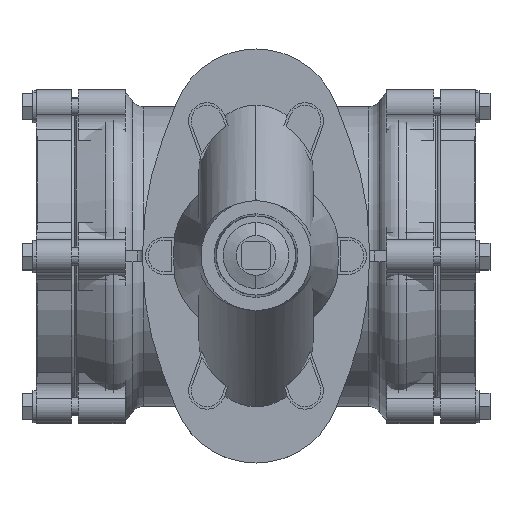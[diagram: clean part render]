
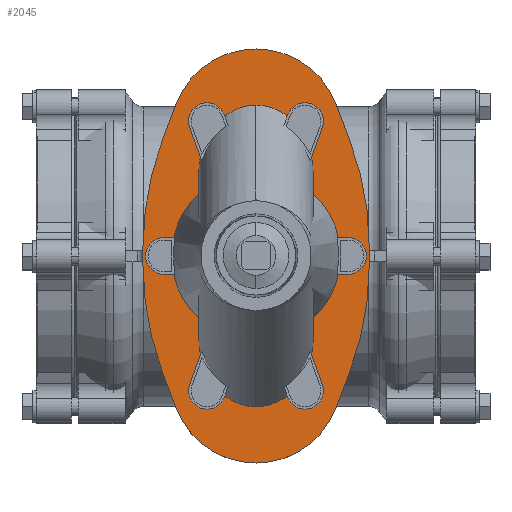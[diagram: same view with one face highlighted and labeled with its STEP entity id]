
A CAD part, top view. The second image highlights one B-rep face of the part: STEP entity #2045.
In plain terms, the highlighted planar face has unit normal (0, 0, 1).
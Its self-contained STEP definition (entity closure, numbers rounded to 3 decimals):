
#2045=ADVANCED_FACE('',(#4462),#4463,.T.);
#4462=FACE_OUTER_BOUND('',#8023,.T.);
#4463=PLANE('',#8024);
#8023=EDGE_LOOP('',(#11030,#11031,#11032,#11033,#11034,#11035,#11036,#11037,#11038,#11039,#11040,#11041,#11042,#11043));
#8024=AXIS2_PLACEMENT_3D('',#11044,#11045,#11046);
#11030=ORIENTED_EDGE('',*,*,#19022,.F.);
#11031=ORIENTED_EDGE('',*,*,#19023,.F.);
#11032=ORIENTED_EDGE('',*,*,#19024,.F.);
#11033=ORIENTED_EDGE('',*,*,#19025,.F.);
#11034=ORIENTED_EDGE('',*,*,#19026,.F.);
#11035=ORIENTED_EDGE('',*,*,#19027,.F.);
#11036=ORIENTED_EDGE('',*,*,#19028,.F.);
#11037=ORIENTED_EDGE('',*,*,#19029,.F.);
#11038=ORIENTED_EDGE('',*,*,#19030,.F.);
#11039=ORIENTED_EDGE('',*,*,#19031,.F.);
#11040=ORIENTED_EDGE('',*,*,#19032,.F.);
#11041=ORIENTED_EDGE('',*,*,#19033,.F.);
#11042=ORIENTED_EDGE('',*,*,#19034,.F.);
#11043=ORIENTED_EDGE('',*,*,#19035,.F.);
#11044=CARTESIAN_POINT('',(55.049,0.001,338.0));
#11045=DIRECTION('',(0.0,0.0,1.0));
#11046=DIRECTION('',(1.0,0.0,0.0));
#19022=EDGE_CURVE('',#22164,#22165,#22166,.T.);
#19023=EDGE_CURVE('',#22167,#22164,#22168,.T.);
#19024=EDGE_CURVE('',#22169,#22167,#22170,.T.);
#19025=EDGE_CURVE('',#22171,#22169,#22172,.T.);
#19026=EDGE_CURVE('',#22173,#22171,#22174,.T.);
#19027=EDGE_CURVE('',#22175,#22173,#22176,.T.);
#19028=EDGE_CURVE('',#22177,#22175,#22178,.T.);
#19029=EDGE_CURVE('',#22179,#22177,#22180,.T.);
#19030=EDGE_CURVE('',#22181,#22179,#22182,.T.);
#19031=EDGE_CURVE('',#22183,#22181,#22184,.T.);
#19032=EDGE_CURVE('',#22185,#22183,#22186,.T.);
#19033=EDGE_CURVE('',#22187,#22185,#22188,.T.);
#19034=EDGE_CURVE('',#22189,#22187,#22190,.T.);
#19035=EDGE_CURVE('',#22165,#22189,#22191,.T.);
#22164=VERTEX_POINT('',#26702);
#22165=VERTEX_POINT('',#26703);
#22166=LINE('',#26704,#26705);
#22167=VERTEX_POINT('',#26706);
#22168=CIRCLE('',#26707,77.985);
#22169=VERTEX_POINT('',#26708);
#22170=LINE('',#26709,#26710);
#22171=VERTEX_POINT('',#26711);
#22172=CIRCLE('',#26712,271.31);
#22173=VERTEX_POINT('',#26713);
#22174=CIRCLE('',#26714,271.31);
#22175=VERTEX_POINT('',#26715);
#22176=CIRCLE('',#26716,271.3);
#22177=VERTEX_POINT('',#26717);
#22178=CIRCLE('',#26718,271.3);
#22179=VERTEX_POINT('',#26719);
#22180=LINE('',#26720,#26721);
#22181=VERTEX_POINT('',#26722);
#22182=CIRCLE('',#26723,77.985);
#22183=VERTEX_POINT('',#26724);
#22184=LINE('',#26725,#26726);
#22185=VERTEX_POINT('',#26727);
#22186=CIRCLE('',#26728,283.766);
#22187=VERTEX_POINT('',#26729);
#22188=CIRCLE('',#26730,283.766);
#22189=VERTEX_POINT('',#26731);
#22190=CIRCLE('',#26732,283.766);
#22191=CIRCLE('',#26733,283.766);
#26702=CARTESIAN_POINT('',(-17.961,-137.997,338.0));
#26703=CARTESIAN_POINT('',(-29.718,-106.82,338.0));
#26704=CARTESIAN_POINT('',(-29.718,-106.82,338.0));
#26705=VECTOR('',#32515,1.0);
#26706=CARTESIAN_POINT('',(127.98,-137.977,338.0));
#26707=AXIS2_PLACEMENT_3D('',#32516,#32517,#32518);
#26708=CARTESIAN_POINT('',(139.718,-106.82,338.0));
#26709=CARTESIAN_POINT('',(127.98,-137.977,338.0));
#26710=VECTOR('',#32519,1.0);
#26711=CARTESIAN_POINT('',(158.036,-8.821,338.0));
#26712=AXIS2_PLACEMENT_3D('',#32520,#32521,#32522);
#26713=CARTESIAN_POINT('',(157.892,0.0,338.0));
#26714=AXIS2_PLACEMENT_3D('',#32523,#32524,#32525);
#26715=CARTESIAN_POINT('',(158.037,8.851,338.0));
#26716=AXIS2_PLACEMENT_3D('',#32526,#32527,#32528);
#26717=CARTESIAN_POINT('',(139.729,106.824,338.0));
#26718=AXIS2_PLACEMENT_3D('',#32529,#32530,#32531);
#26719=CARTESIAN_POINT('',(127.971,138.001,338.0));
#26720=CARTESIAN_POINT('',(139.729,106.824,338.0));
#26721=VECTOR('',#32532,1.0);
#26722=CARTESIAN_POINT('',(-17.961,137.997,338.0));
#26723=AXIS2_PLACEMENT_3D('',#32533,#32534,#32535);
#26724=CARTESIAN_POINT('',(-29.718,106.82,338.0));
#26725=CARTESIAN_POINT('',(-17.961,137.997,338.0));
#26726=VECTOR('',#32536,1.0);
#26727=CARTESIAN_POINT('',(-47.971,6.69,338.0));
#26728=AXIS2_PLACEMENT_3D('',#32537,#32538,#32539);
#26729=CARTESIAN_POINT('',(-47.892,0.,338.0));
#26730=AXIS2_PLACEMENT_3D('',#32540,#32541,#32542);
#26731=CARTESIAN_POINT('',(-47.971,-6.69,338.0));
#26732=AXIS2_PLACEMENT_3D('',#32543,#32544,#32545);
#26733=AXIS2_PLACEMENT_3D('',#32546,#32547,#32548);
#32515=DIRECTION('',(-0.353,0.936,0.0));
#32516=CARTESIAN_POINT('',(55.006,-110.473,338.0));
#32517=DIRECTION('',(0.0,0.0,-1.0));
#32518=DIRECTION('',(1.0,0.0,0.0));
#32519=DIRECTION('',(-0.353,-0.936,-0.0));
#32520=CARTESIAN_POINT('',(-113.275,-8.821,338.0));
#32521=DIRECTION('',(0.0,0.0,-1.0));
#32522=DIRECTION('',(1.0,0.0,0.0));
#32523=CARTESIAN_POINT('',(-113.275,-8.821,338.0));
#32524=DIRECTION('',(0.0,0.0,-1.0));
#32525=DIRECTION('',(1.0,0.0,0.0));
#32526=CARTESIAN_POINT('',(-113.264,8.851,338.0));
#32527=DIRECTION('',(0.0,0.0,-1.0));
#32528=DIRECTION('',(1.0,0.0,0.0));
#32529=CARTESIAN_POINT('',(-113.264,8.851,338.0));
#32530=DIRECTION('',(0.0,0.0,-1.0));
#32531=DIRECTION('',(1.0,0.0,0.0));
#32532=DIRECTION('',(0.353,-0.936,0.0));
#32533=CARTESIAN_POINT('',(55.006,110.473,338.0));
#32534=DIRECTION('',(0.0,0.0,-1.0));
#32535=DIRECTION('',(1.0,0.0,0.0));
#32536=DIRECTION('',(0.353,0.936,0.0));
#32537=CARTESIAN_POINT('',(235.795,6.69,338.0));
#32538=DIRECTION('',(0.0,0.0,-1.0));
#32539=DIRECTION('',(1.0,0.0,0.0));
#32540=CARTESIAN_POINT('',(235.795,6.69,338.0));
#32541=DIRECTION('',(0.0,0.0,-1.0));
#32542=DIRECTION('',(1.0,0.0,0.0));
#32543=CARTESIAN_POINT('',(235.795,-6.69,338.0));
#32544=DIRECTION('',(0.0,0.0,-1.0));
#32545=DIRECTION('',(1.0,0.0,0.0));
#32546=CARTESIAN_POINT('',(235.795,-6.69,338.0));
#32547=DIRECTION('',(0.0,0.0,-1.0));
#32548=DIRECTION('',(1.0,0.0,0.0));
